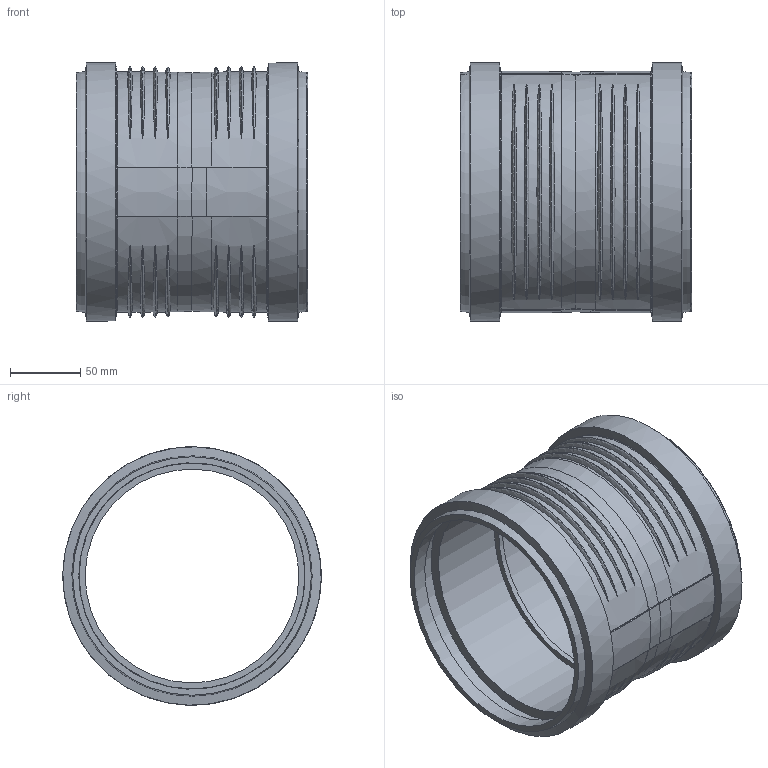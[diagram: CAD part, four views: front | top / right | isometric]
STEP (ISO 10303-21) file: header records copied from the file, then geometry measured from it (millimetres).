
FILE_DESCRIPTION(/* description */ (''),/* implementation_level */ '2;1');
FILE_NAME(/* name */ 'C:\Planerdaten\Export PLA\390.716.14.1\stp\390716.stp',/* time_stamp */ '2022-04-01T10:41:16+02:00',/* author */ ('JANAN'),/* organization */ (''),/* preprocessor_version */ 'ST-DEVELOPER v16.13',/* originating_system */ 'Autodesk Inventor 2018',/* authorisation */ '');
FILE_SCHEMA (('AUTOMOTIVE_DESIGN { 1 0 10303 214 3 1 1 }'));
Length unit declared in the file: millimetre
Products named in the file (1): tmpB47A.tmp
Bounding box: 165 x 184.46 x 184.49 mm (x, y, z)
Volume: 526614.1 mm3; surface area: 218832.2 mm2
Topology: 1 solids, 1 shells, 171 faces, 363 edges, 204 vertices
Faces by surface type: bspline 138, torus 11, cylinder 9, cone 8, plane 4, sphere 1
Full cylindrical faces by diameter (mm): 152.6 x1, 161.2 x2, 161.7 x2, 174.9 x2, 184.5 x2
Entity records: 14508 total; most frequent: CARTESIAN_POINT 11102, ORIENTED_EDGE 688, DIRECTION 565, EDGE_CURVE 344, AXIS2_PLACEMENT_3D 268, VERTEX_POINT 222, EDGE_LOOP 220, CIRCLE 206
